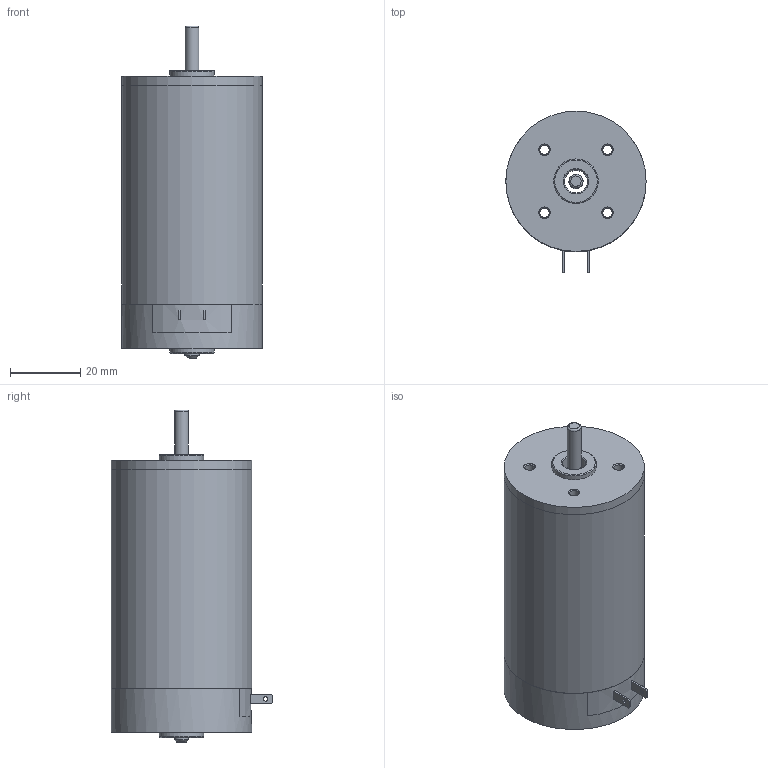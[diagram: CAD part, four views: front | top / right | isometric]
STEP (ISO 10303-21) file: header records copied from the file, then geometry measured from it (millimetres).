
FILE_DESCRIPTION(/* description */ (''),/* implementation_level */ '2;1');
FILE_NAME(/* name */ 'Z:\새 폴더\Compact Type RM4_3D\RM46ㅁBT.stp',/* time_stamp */ '2022-04-05T16:24:35+09:00',/* author */ ('umbro'),/* organization */ (''),/* preprocessor_version */ 'ST-DEVELOPER v17',/* originating_system */ 'Autodesk Inventor 2019',/* authorisation */ '');
FILE_SCHEMA (('AUTOMOTIVE_DESIGN { 1 0 10303 214 3 1 1 }'));
Length unit declared in the file: millimetre
Products named in the file (8): RM46ㅁBT; REAR_HOUSING__ASS'Y_TERMINAL; RM4TYPE_BRUSH_BRAKET_TERMINAL; RM4TYPE_REAR_HOUSING; RM4TYPE_FRONT_HOUSING_; RM4TYPE_PIPE_HOUSING_pi40XL62.4; RM46TYPE_SHAFT; AS 1427 Z - 미터 M3.5 x 5
Assembly tree (7 placements, depth 2):
  RM46ㅁBT
    RM4TYPE_FRONT_HOUSING_
    RM4TYPE_PIPE_HOUSING_pi40XL62.4
    RM46TYPE_SHAFT
    AS 1427 Z - 미터 M3.5 x 5  x2
  REAR_HOUSING__ASS'Y_TERMINAL
    RM4TYPE_BRUSH_BRAKET_TERMINAL
    RM4TYPE_REAR_HOUSING
Bounding box: 40 x 46 x 94.64 mm (x, y, z)
Volume: 25592.4 mm3; surface area: 25545.1 mm2
Topology: 7 solids, 7 shells, 158 faces, 405 edges, 266 vertices
Faces by surface type: plane 73, cone 44, cylinder 30, torus 11
Full cylindrical faces by diameter (mm): 1.2 x2, 2.7 x4, 2.8 x4, 3.132 x2, 3.5 x2, 3.7 x2, 3.969 x1, 4 x1, 6.1 x2, 6.5 x1, 6.65 x1, 12.7 x2, 36.5 x1, 40 x3
Entity records: 4068 total; most frequent: CARTESIAN_POINT 834, DIRECTION 643, ORIENTED_EDGE 580, EDGE_CURVE 290, AXIS2_PLACEMENT_3D 256, VERTEX_POINT 191, EDGE_LOOP 153, LINE 131
